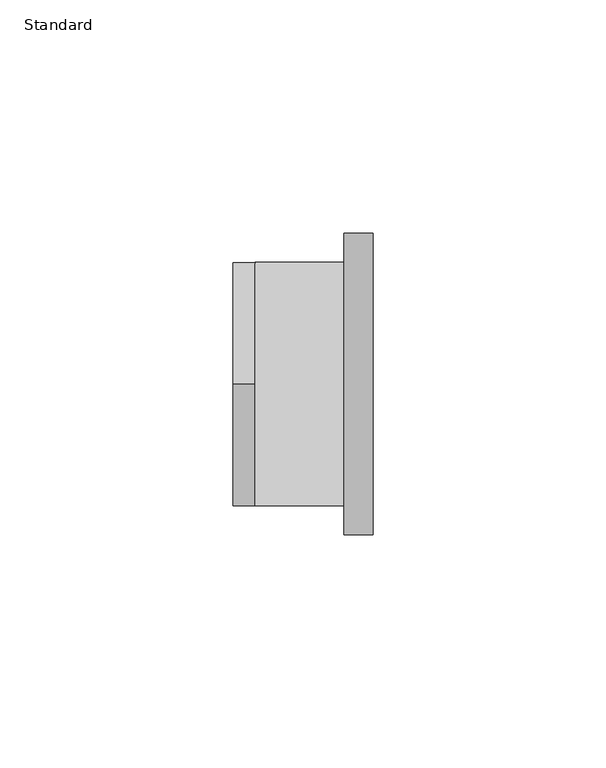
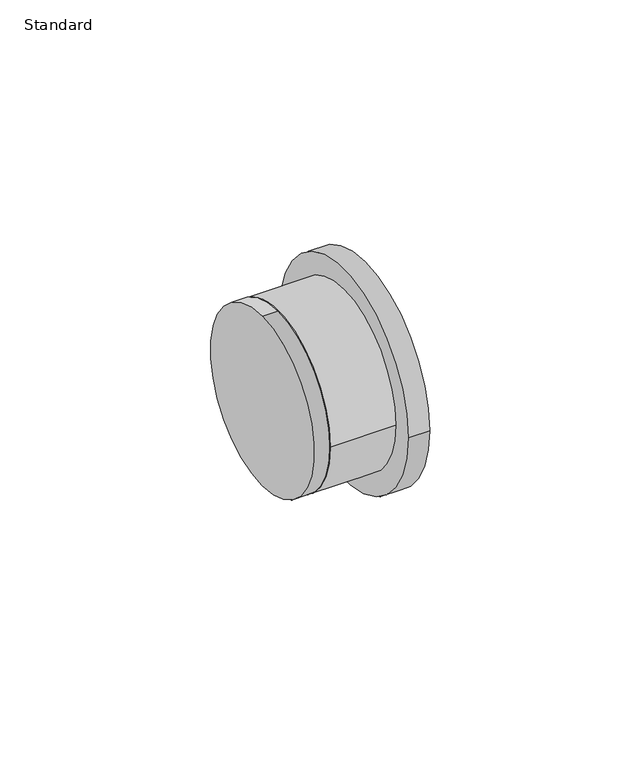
"""IFC4 building model written with IfcOpenShell, lengths in millimetres: pipe fitting geometry, Reducion Bushing_Lubrizol_CPVC_FlowGuard_MX : Standard."""

from ifc_helpers import new_model, si_unit, point, frame, origin, origin_2d, place, context, project, spatial, circle_curve, trimmed, segment, composite_curve, outline, extrude, source, transform, mapped, element, save


def standard_3f7eeb25(model_context):
    return source(origin(), model_context, "Body", "SweptSolid", [
        extrude(outline(composite_curve([segment(trimmed(circle_curve(origin_2d(), 26.11), [point((-26.11, 0.0))], [point((26.11, 0.0))], False, "CARTESIAN"), True, "CONTINUOUS"), segment(trimmed(circle_curve(origin_2d(), 26.11), [point((26.11, 0.0))], [point((-26.11, 0.0))], False, "CARTESIAN"), True, "CONTINUOUS")], self_intersect=False)), frame((4.75, 0.0, 0.0), z_axis=(1.0, 0.0, 0.0), x_axis=(0.0, 1.0, 0.0)), (0.0, 0.0, 1.0), 19.038),
        extrude(outline(composite_curve([segment(trimmed(circle_curve(origin_2d(), 32.35), [point((-32.35, 0.0))], [point((32.35, 0.0))], False, "CARTESIAN"), True, "CONTINUOUS"), segment(trimmed(circle_curve(origin_2d(), 32.35), [point((32.35, 0.0))], [point((-32.35, 0.0))], False, "CARTESIAN"), True, "CONTINUOUS")], self_intersect=False)), frame((23.788, 0.0, 0.0), z_axis=(1.0, 0.0, 0.0), x_axis=(0.0, 1.0, 0.0)), (0.0, 0.0, 1.0), 6.25),
        extrude(outline(composite_curve([segment(trimmed(circle_curve(origin_2d(), 26.11), [point((0.0, 26.11))], [point((0.0, -26.11))], False, "CARTESIAN"), True, "CONTINUOUS"), segment(trimmed(circle_curve(origin_2d(), 26.11), [point((0.0, -26.11))], [point((0.0, 26.11))], False, "CARTESIAN"), True, "CONTINUOUS")], self_intersect=False)), frame((0.0, 0.0, 0.0), z_axis=(1.0, 0.0, 0.0), x_axis=(0.0, 1.0, 0.0)), (0.0, 0.0, 1.0), 4.75),
    ])


if __name__ == "__main__":
    model = new_model("IFC4")
    model_context = context("Model", 3, world=origin())
    ifc_project = project(units=[si_unit("LENGTHUNIT", "METRE", prefix="MILLI")], contexts=[model_context])
    site = spatial("IfcSite", under=ifc_project)
    building = spatial("IfcBuilding", under=site)
    placement = place(None, origin())
    standard_shape = standard_3f7eeb25(model_context)
    element("IfcPipeFitting", 1, ObjectType="Reducion Bushing_Lubrizol_CPVC_FlowGuard_MX : Standard", at=placement, inside=building, context=model_context, shape_type="MappedRepresentation", body=[
        mapped(standard_shape, transform((0.0, 0.0, 0.0), x_axis=(1.0, 0.0, 0.0), y_axis=(0.0, 1.0, 0.0), z_axis=(0.0, 0.0, 1.0))),
    ])
    save(model, "model.ifc")
